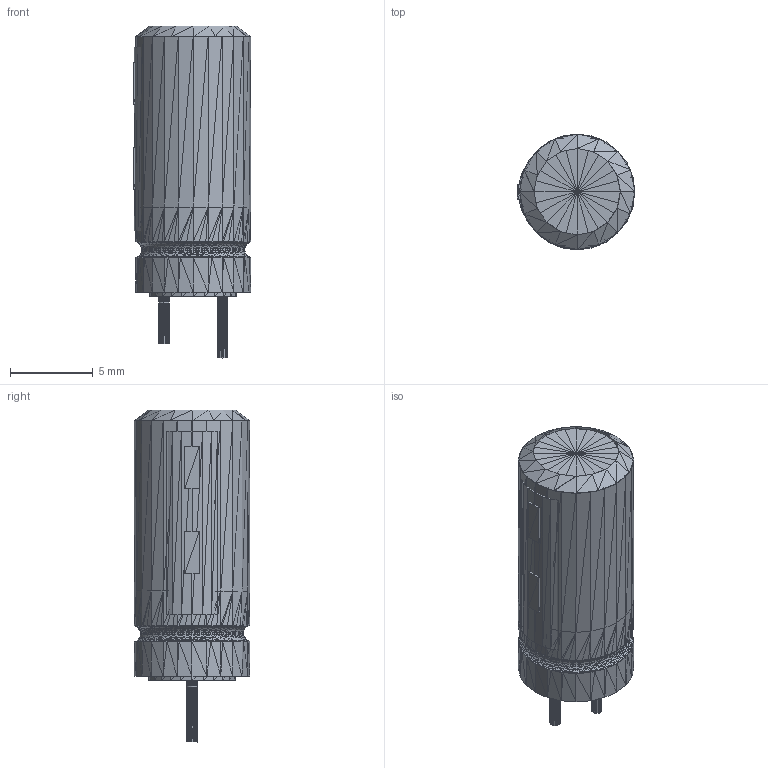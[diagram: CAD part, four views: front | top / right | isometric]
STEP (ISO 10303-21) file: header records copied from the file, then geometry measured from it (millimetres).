
FILE_DESCRIPTION(('HOOPS Exchange Step'),'2;1');
FILE_NAME('***.stp');
FILE_SCHEMA( ('AP242_MANAGED_MODEL_BASED_3D_ENGINEERING_MIM_LF {1 0 10303 442 1 1 4 }') );
Length unit declared in the file: inch
Products named in the file (11): CAPOLV275X625MIL_2; CAPOLV275X625MIL_3; CAPOLV275X625MIL_4; CAPOLV275X625MIL_5; CAPOLV275X625MIL_6; CAPOLV275X625MIL_7; CAPOLV275X625MIL_8; CAPOLV275X625MIL_9; CAPOLV275X625MIL_10; CAPOLV275X625MIL_11; CAPOLV275X625MIL
Assembly tree (10 placements, depth 2):
  CAPOLV275X625MIL
    CAPOLV275X625MIL_2
    CAPOLV275X625MIL_3
    CAPOLV275X625MIL_4
    CAPOLV275X625MIL_5
    CAPOLV275X625MIL_6
    CAPOLV275X625MIL_7
    CAPOLV275X625MIL_8
    CAPOLV275X625MIL_9
    CAPOLV275X625MIL_10
    CAPOLV275X625MIL_11
Bounding box: 7.13 x 6.99 x 20.11 mm (x, y, z)
Volume: 664.4 mm3; surface area: 785.4 mm2
Topology: 10 solids, 10 shells, 2004 faces, 3006 edges, 1020 vertices
Faces by surface type: plane 2004
Entity records: 39590 total; most frequent: DIRECTION 7058, CARTESIAN_POINT 6052, ORIENTED_EDGE 6012, VECTOR 3006, LINE 3006, EDGE_CURVE 3006, AXIS2_PLACEMENT_3D 2026, PLANE 2004
